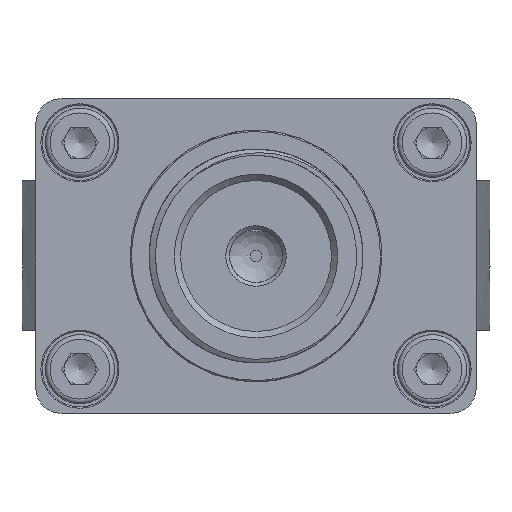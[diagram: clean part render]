
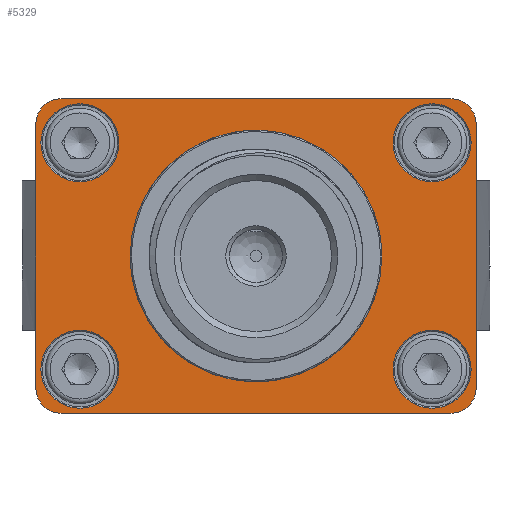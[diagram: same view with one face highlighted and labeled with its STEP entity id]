
A CAD part, front view. The second image highlights one B-rep face of the part: STEP entity #5329.
In plain terms, the highlighted planar face has unit normal (0, -1, 0).
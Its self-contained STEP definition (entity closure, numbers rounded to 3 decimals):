
#3988=PLANE('',#11234);
#4152=LINE('',#14246,#4614);
#4159=LINE('',#14267,#4621);
#4174=LINE('',#14317,#4636);
#4182=LINE('',#14349,#4644);
#4614=VECTOR('',#11974,1.);
#4621=VECTOR('',#11985,1.);
#4636=VECTOR('',#12018,1.);
#4644=VECTOR('',#12044,1.);
#5329=ADVANCED_FACE('',(#5904,#5905,#5906,#5907,#5908,#5909),#3988,.T.);
#5904=FACE_BOUND('',#6491,.T.);
#5905=FACE_BOUND('',#6492,.T.);
#5906=FACE_BOUND('',#6493,.T.);
#5907=FACE_BOUND('',#6494,.T.);
#5908=FACE_BOUND('',#6495,.T.);
#5909=FACE_BOUND('',#6496,.T.);
#6491=EDGE_LOOP('',(#7752));
#6492=EDGE_LOOP('',(#7753));
#6493=EDGE_LOOP('',(#7754));
#6494=EDGE_LOOP('',(#7755));
#6495=EDGE_LOOP('',(#7756));
#6496=EDGE_LOOP('',(#7757,#7758,#7759,#7760,#7761,#7762,#7763,#7764));
#7752=ORIENTED_EDGE('',*,*,#9950,.T.);
#7753=ORIENTED_EDGE('',*,*,#9949,.T.);
#7754=ORIENTED_EDGE('',*,*,#9948,.T.);
#7755=ORIENTED_EDGE('',*,*,#9947,.T.);
#7756=ORIENTED_EDGE('',*,*,#9946,.T.);
#7757=ORIENTED_EDGE('',*,*,#9767,.F.);
#7758=ORIENTED_EDGE('',*,*,#9682,.F.);
#7759=ORIENTED_EDGE('',*,*,#9762,.F.);
#7760=ORIENTED_EDGE('',*,*,#9638,.F.);
#7761=ORIENTED_EDGE('',*,*,#9761,.F.);
#7762=ORIENTED_EDGE('',*,*,#9667,.F.);
#7763=ORIENTED_EDGE('',*,*,#9756,.F.);
#7764=ORIENTED_EDGE('',*,*,#9646,.F.);
#8940=VERTEX_POINT('',#14245);
#8941=VERTEX_POINT('',#14247);
#8946=VERTEX_POINT('',#14266);
#8947=VERTEX_POINT('',#14268);
#8966=VERTEX_POINT('',#14316);
#8967=VERTEX_POINT('',#14318);
#8981=VERTEX_POINT('',#14348);
#8982=VERTEX_POINT('',#14350);
#9133=VERTEX_POINT('',#15332);
#9134=VERTEX_POINT('',#15335);
#9135=VERTEX_POINT('',#15338);
#9136=VERTEX_POINT('',#15341);
#9137=VERTEX_POINT('',#15344);
#9638=EDGE_CURVE('',#8940,#8941,#4152,.T.);
#9646=EDGE_CURVE('',#8946,#8947,#4159,.T.);
#9667=EDGE_CURVE('',#8966,#8967,#4174,.T.);
#9682=EDGE_CURVE('',#8981,#8982,#4182,.T.);
#9756=EDGE_CURVE('',#8947,#8966,#10567,.T.);
#9761=EDGE_CURVE('',#8967,#8940,#10572,.T.);
#9762=EDGE_CURVE('',#8941,#8981,#10573,.T.);
#9767=EDGE_CURVE('',#8982,#8946,#10578,.T.);
#9946=EDGE_CURVE('',#9133,#9133,#10651,.T.);
#9947=EDGE_CURVE('',#9134,#9134,#10652,.T.);
#9948=EDGE_CURVE('',#9135,#9135,#10653,.T.);
#9949=EDGE_CURVE('',#9136,#9136,#10654,.T.);
#9950=EDGE_CURVE('',#9137,#9137,#10655,.T.);
#10567=CIRCLE('',#11036,2.);
#10572=CIRCLE('',#11045,2.);
#10573=CIRCLE('',#11047,2.);
#10578=CIRCLE('',#11056,2.);
#10651=CIRCLE('',#11224,10.);
#10652=CIRCLE('',#11226,3.1);
#10653=CIRCLE('',#11228,3.1);
#10654=CIRCLE('',#11230,3.1);
#10655=CIRCLE('',#11232,3.1);
#11036=AXIS2_PLACEMENT_3D('',#14588,#12187,#12188);
#11045=AXIS2_PLACEMENT_3D('',#14597,#12205,#12206);
#11047=AXIS2_PLACEMENT_3D('',#14599,#12209,#12210);
#11056=AXIS2_PLACEMENT_3D('',#14608,#12227,#12228);
#11224=AXIS2_PLACEMENT_3D('',#15331,#12659,#12660);
#11226=AXIS2_PLACEMENT_3D('',#15334,#12663,#12664);
#11228=AXIS2_PLACEMENT_3D('',#15337,#12667,#12668);
#11230=AXIS2_PLACEMENT_3D('',#15340,#12671,#12672);
#11232=AXIS2_PLACEMENT_3D('',#15343,#12675,#12676);
#11234=AXIS2_PLACEMENT_3D('',#15346,#12679,#12680);
#11974=DIRECTION('',(0.,0.,-1.));
#11985=DIRECTION('',(0.,0.,1.));
#12018=DIRECTION('',(1.,0.,0.));
#12044=DIRECTION('',(-1.,0.,0.));
#12187=DIRECTION('',(0.,1.,0.));
#12188=DIRECTION('',(0.,0.,-1.));
#12205=DIRECTION('',(0.,1.,0.));
#12206=DIRECTION('',(0.,0.,-1.));
#12209=DIRECTION('',(0.,1.,0.));
#12210=DIRECTION('',(0.,0.,-1.));
#12227=DIRECTION('',(0.,1.,0.));
#12228=DIRECTION('',(0.,0.,-1.));
#12659=DIRECTION('',(0.,1.,0.));
#12660=DIRECTION('',(1.,0.,0.));
#12663=DIRECTION('',(0.,1.,0.));
#12664=DIRECTION('',(0.,0.,-1.));
#12667=DIRECTION('',(0.,1.,0.));
#12668=DIRECTION('',(0.,0.,-1.));
#12671=DIRECTION('',(0.,1.,0.));
#12672=DIRECTION('',(0.,0.,-1.));
#12675=DIRECTION('',(0.,1.,0.));
#12676=DIRECTION('',(0.,0.,-1.));
#12679=DIRECTION('',(0.,-1.,0.));
#12680=DIRECTION('',(-1.,0.,0.));
#14245=CARTESIAN_POINT('',(281.,-180.675,-47.5));
#14246=CARTESIAN_POINT('',(281.,-180.675,-45.5));
#14247=CARTESIAN_POINT('',(281.,-180.675,-68.5));
#14266=CARTESIAN_POINT('',(246.,-180.675,-68.5));
#14267=CARTESIAN_POINT('',(246.,-180.675,-70.5));
#14268=CARTESIAN_POINT('',(246.,-180.675,-47.5));
#14316=CARTESIAN_POINT('',(248.,-180.675,-45.5));
#14317=CARTESIAN_POINT('',(246.,-180.675,-45.5));
#14318=CARTESIAN_POINT('',(279.,-180.675,-45.5));
#14348=CARTESIAN_POINT('',(279.,-180.675,-70.5));
#14349=CARTESIAN_POINT('',(281.,-180.675,-70.5));
#14350=CARTESIAN_POINT('',(248.,-180.675,-70.5));
#14588=CARTESIAN_POINT('',(248.,-180.675,-47.5));
#14597=CARTESIAN_POINT('',(279.,-180.675,-47.5));
#14599=CARTESIAN_POINT('',(279.,-180.675,-68.5));
#14608=CARTESIAN_POINT('',(248.,-180.675,-68.5));
#15331=CARTESIAN_POINT('',(263.5,-180.675,-58.));
#15332=CARTESIAN_POINT('',(273.5,-180.675,-58.));
#15334=CARTESIAN_POINT('',(277.5,-180.675,-67.));
#15335=CARTESIAN_POINT('',(277.5,-180.675,-70.1));
#15337=CARTESIAN_POINT('',(277.5,-180.675,-49.));
#15338=CARTESIAN_POINT('',(277.5,-180.675,-52.1));
#15340=CARTESIAN_POINT('',(249.5,-180.675,-49.));
#15341=CARTESIAN_POINT('',(249.5,-180.675,-52.1));
#15343=CARTESIAN_POINT('',(249.5,-180.675,-67.));
#15344=CARTESIAN_POINT('',(249.5,-180.675,-70.1));
#15346=CARTESIAN_POINT('',(249.5,-180.675,-67.));
